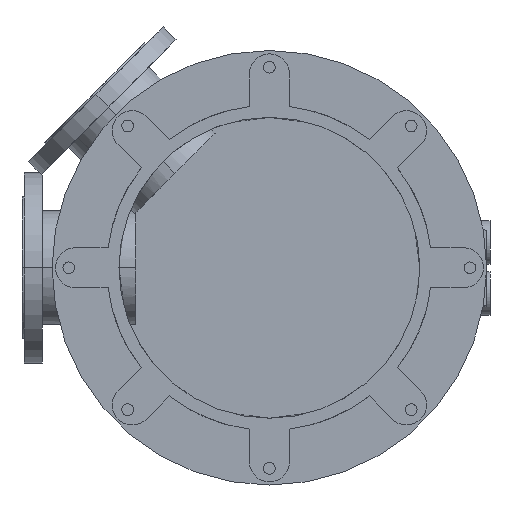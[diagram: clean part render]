
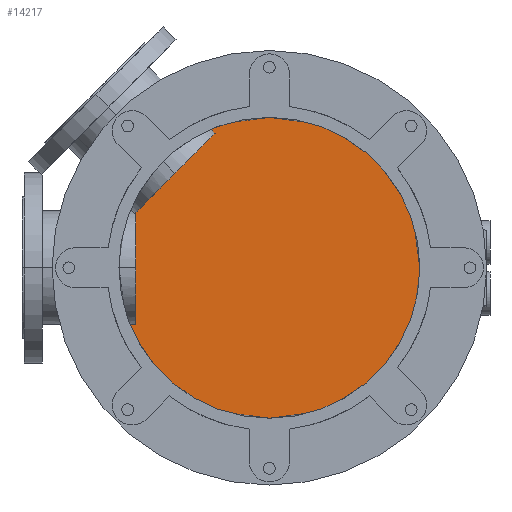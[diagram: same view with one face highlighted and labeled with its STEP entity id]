
A CAD part, front view. The second image highlights one B-rep face of the part: STEP entity #14217.
In plain terms, the highlighted planar face has unit normal (0, -1, 0).
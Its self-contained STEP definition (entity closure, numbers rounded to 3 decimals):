
#2818=CARTESIAN_POINT('',(0.,1004.,0.));
#2819=DIRECTION('',(0.,-1.,0.));
#2820=DIRECTION('',(0.,0.,1.));
#2821=AXIS2_PLACEMENT_3D('',#2818,#2819,#2820);
#2990=CARTESIAN_POINT('',(0.,1004.,0.));
#2991=DIRECTION('',(0.,-1.,0.));
#2992=DIRECTION('',(0.,0.,-1.));
#2993=AXIS2_PLACEMENT_3D('',#2990,#2991,#2992);
#9210=CARTESIAN_POINT('',(0.,1004.,240.));
#9211=CARTESIAN_POINT('',(0.,1004.,-240.));
#9212=VERTEX_POINT('',#9210);
#9213=VERTEX_POINT('',#9211);
#14207=CARTESIAN_POINT('',(0.,1004.,0.));
#14208=DIRECTION('',(0.,1.,0.));
#14209=DIRECTION('',(0.,0.,-1.));
#14210=AXIS2_PLACEMENT_3D('',#14207,#14208,#14209);
#14211=PLANE('',#14210);
#14212=ORIENTED_EDGE('',*,*,#14185,.F.);
#14214=ORIENTED_EDGE('',*,*,#14213,.F.);
#14215=EDGE_LOOP('',(#14212,#14214));
#14216=FACE_OUTER_BOUND('',#14215,.F.);
#14217=ADVANCED_FACE('',(#14216),#14211,.F.);
#2822=CIRCLE('',#2821,240.);
#2994=CIRCLE('',#2993,240.);
#14185=EDGE_CURVE('',#9212,#9213,#2822,.T.);
#14213=EDGE_CURVE('',#9213,#9212,#2994,.T.);
